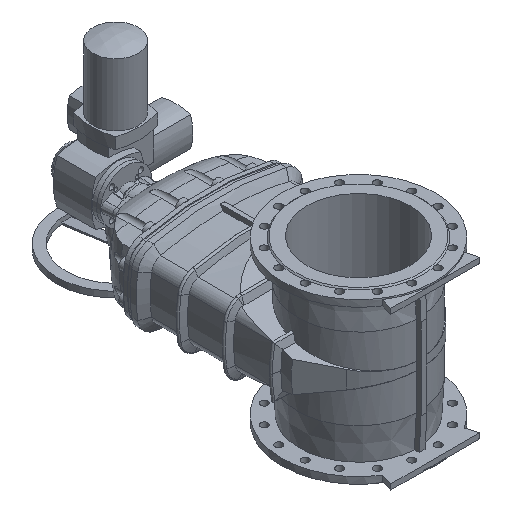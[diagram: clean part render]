
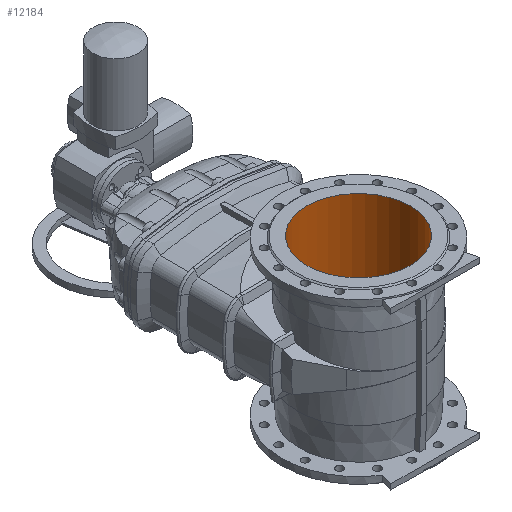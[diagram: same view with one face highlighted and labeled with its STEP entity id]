
A CAD part, isometric view. The second image highlights one B-rep face of the part: STEP entity #12184.
In plain terms, the highlighted cylindrical face has radius 175 mm (diameter 350 mm), a full revolution.
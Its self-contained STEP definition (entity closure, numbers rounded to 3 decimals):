
#2202 = DIRECTION ( 'NONE',  ( -1., 0., 0. ) ) ;
#2203 = CARTESIAN_POINT ( 'NONE',  ( 0., 0., 769.975 ) ) ;
#2204 = DIRECTION ( 'NONE',  ( 0., 0., -1. ) ) ;
#2720 = FACE_OUTER_BOUND ( 'NONE', #13794, .T. ) ;
#2727 = FACE_OUTER_BOUND ( 'NONE', #4573, .T. ) ;
#2729 = CYLINDRICAL_SURFACE ( 'NONE', #3142, 175. ) ;
#2977 = VERTEX_POINT ( 'NONE', #3992 ) ;
#3027 = VERTEX_POINT ( 'NONE', #4042 ) ;
#3142 = AXIS2_PLACEMENT_3D ( 'NONE', #2203, #2204, #2202 ) ;
#3992 = CARTESIAN_POINT ( 'NONE',  ( 175., 0., 275. ) ) ;
#4042 = CARTESIAN_POINT ( 'NONE',  ( -175., 0., -275. ) ) ;
#4573 = EDGE_LOOP ( 'NONE', ( #6631 ) ) ;
#4683 = CARTESIAN_POINT ( 'NONE',  ( 0., 0., 275. ) ) ;
#4685 = DIRECTION ( 'NONE',  ( 0., 0., -1. ) ) ;
#4686 = DIRECTION ( 'NONE',  ( 1., 0., 0. ) ) ;
#6630 = ORIENTED_EDGE ( 'NONE', *, *, #10888, .T. ) ;
#6631 = ORIENTED_EDGE ( 'NONE', *, *, #7155, .F. ) ;
#7155 = EDGE_CURVE ( 'NONE', #2977, #2977, #14372, .T. ) ;
#8069 = CIRCLE ( 'NONE', #19680, 175. ) ;
#10888 = EDGE_CURVE ( 'NONE', #3027, #3027, #8069, .T. ) ;
#12184 = ADVANCED_FACE ( 'NONE', ( #2720, #2727 ), #2729, .F. ) ;
#13794 = EDGE_LOOP ( 'NONE', ( #6630 ) ) ;
#14372 = CIRCLE ( 'NONE', #19391, 175. ) ;
#17517 = CARTESIAN_POINT ( 'NONE',  ( 0., 0., -275. ) ) ;
#17518 = DIRECTION ( 'NONE',  ( 0., 0., -1. ) ) ;
#17519 = DIRECTION ( 'NONE',  ( -1., 0., 0. ) ) ;
#19391 = AXIS2_PLACEMENT_3D ( 'NONE', #4683, #4685, #4686 ) ;
#19680 = AXIS2_PLACEMENT_3D ( 'NONE', #17517, #17518, #17519 ) ;
